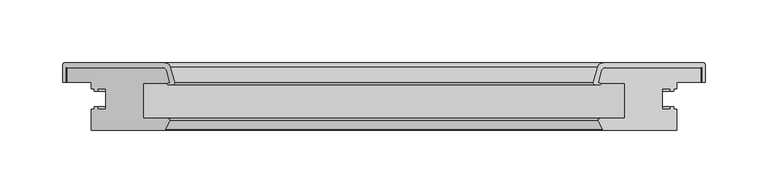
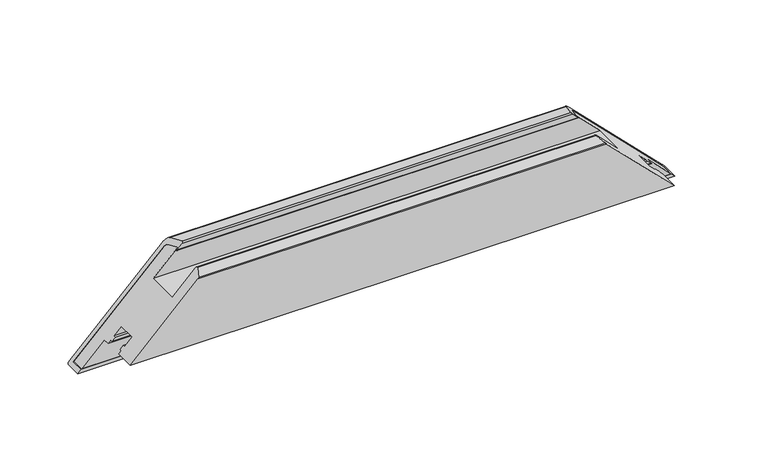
"""IFC4 building model written with IfcOpenShell, lengths in millimetres: proxy geometry, Weiku - Montante - Folha 02.2.01.018 : Weiku - Montante - Folha 02.2.01.018."""

from ifc_helpers import new_model, si_unit, frame, origin, place, context, project, spatial, polyline, ellipse_curve, source, transform, mapped, element, save
from ifc_brep_helpers import plane_surface, cylinder_surface, revolved_surface, advanced_brep


def generic_models_f7bc3406(model_context):
    return source(origin(), model_context, "Body", "AdvancedBrep", [
        advanced_brep(
        [(253.5, 50.0, 0.0), (176.4997332, 50.0, 77.0002668), (-176.4997332, 50.0, 77.0002668), (-253.5, 50.0, 0.0), (173.6019557, 47.7764571, 79.8980443), (-173.6019557, 47.7764571, 79.8980443), (171.0170371, 38.1294095, 82.4829629), (-171.0170371, 38.1294095, 82.4829629), (171.5, 37.5, 82.0), (-171.5, 37.5, 82.0), (172.3560102, 37.5, 81.1439898), (-172.3560102, 37.5, 81.1439898), (172.3560102, 36.5, 81.1439898), (-172.3560102, 36.5, 81.1439898), (167.7425588, 36.5, 85.7574412), (-167.7425588, 36.5, 85.7574412), (166.7766329, 37.758819, 86.7233671), (-166.7766329, 37.758819, 86.7233671), (170.1354501, 50.2940952, 83.3645499), (-170.1354501, 50.2940952, 83.3645499), (174.9650792, 54.0, 78.5349208), (-174.9650792, 54.0, 78.5349208), (254.5, 54.0, -1.0), (-254.5, 54.0, -1.0), (256.5, 52.0, -3.0), (-256.5, 52.0, -3.0), (256.5, 38.5, -3.0), (-256.5, 38.5, -3.0), (253.5, 38.5, 0.0), (-253.5, 38.5, 0.0)],
        [
            (0, 1),
            (1, 2),
            (2, 3),
            (3, 0),
            (1, 4, ellipse_curve(frame((176.4997332, 47.0, 77.0002668), z_axis=(0.7071067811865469, 0.0, 0.7071067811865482), x_axis=(0.707106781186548, 0.0, -0.7071067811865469)), 4.2426407, 3.0)),
            (4, 5),
            (5, 2, ellipse_curve(frame((-176.4997332, 47.0, 77.0002668), z_axis=(-0.707106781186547, 0.0, 0.7071067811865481), x_axis=(0.7071067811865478, 0.0, 0.707106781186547)), 4.2426407, 3.0)),
            (4, 6),
            (6, 7),
            (7, 5),
            (6, 8, ellipse_curve(frame((171.5, 38.0, 82.0), z_axis=(0.7071067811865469, 0.0, 0.7071067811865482), x_axis=(0.707106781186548, 0.0, -0.7071067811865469)), 0.7071068, 0.5)),
            (8, 9),
            (9, 7, ellipse_curve(frame((-171.5, 38.0, 82.0), z_axis=(-0.707106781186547, 0.0, 0.7071067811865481), x_axis=(0.7071067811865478, 0.0, 0.707106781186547)), 0.7071068, 0.5)),
            (8, 10),
            (10, 11),
            (11, 9),
            (10, 12, ellipse_curve(frame((172.3560102, 37.0, 81.1439898), z_axis=(-0.7071067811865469, 0.0, -0.7071067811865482), x_axis=(-0.707106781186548, 0.0, 0.7071067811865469)), 0.7071068, 0.5)),
            (12, 13),
            (13, 11, ellipse_curve(frame((-172.3560102, 37.0, 81.1439898), z_axis=(0.707106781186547, 0.0, -0.7071067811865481), x_axis=(-0.7071067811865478, 0.0, -0.707106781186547)), 0.7071068, 0.5)),
            (12, 14),
            (14, 15),
            (15, 13),
            (14, 16, ellipse_curve(frame((167.7425588, 37.5, 85.7574412), z_axis=(-0.7071067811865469, 0.0, -0.7071067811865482), x_axis=(-0.707106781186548, 0.0, 0.7071067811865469)), 1.4142136, 1.0)),
            (16, 17),
            (17, 15, ellipse_curve(frame((-167.7425588, 37.5, 85.7574412), z_axis=(0.707106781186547, 0.0, -0.7071067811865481), x_axis=(-0.7071067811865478, 0.0, -0.707106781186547)), 1.4142136, 1.0)),
            (16, 18),
            (18, 19),
            (19, 17),
            (18, 20, ellipse_curve(frame((174.9650792, 49.0, 78.5349208), z_axis=(-0.7071067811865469, 0.0, -0.7071067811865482), x_axis=(-0.707106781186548, 0.0, 0.7071067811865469)), 7.0710678, 5.0)),
            (20, 21),
            (21, 19, ellipse_curve(frame((-174.9650792, 49.0, 78.5349208), z_axis=(0.707106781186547, 0.0, -0.7071067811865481), x_axis=(-0.7071067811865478, 0.0, -0.707106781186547)), 7.0710678, 5.0)),
            (20, 22),
            (22, 23),
            (23, 21),
            (22, 24, ellipse_curve(frame((254.5, 52.0, -1.0), z_axis=(-0.7071067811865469, 0.0, -0.7071067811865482), x_axis=(-0.707106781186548, 0.0, 0.7071067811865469)), 2.8284271, 2.0)),
            (24, 25),
            (25, 23, ellipse_curve(frame((-254.5, 52.0, -1.0), z_axis=(0.707106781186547, 0.0, -0.7071067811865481), x_axis=(-0.7071067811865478, 0.0, -0.707106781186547)), 2.8284271, 2.0)),
            (24, 26),
            (26, 27),
            (27, 25),
            (26, 28),
            (28, 29),
            (29, 27),
            (28, 0),
            (3, 29),
        ],
        [
            plane_surface(frame((-273.5, 50.0, 0.0), z_axis=(0.0, -1.0, 0.0), x_axis=(1.0, 0.0, 0.0))),
            revolved_surface(polyline([(179.49973320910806, 50.0, 77.0002668), (-179.49973320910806, 50.0, 77.0002668)]), (-273.5, 47.0, 77.0002668), (1.0, 0.0, 0.0)),
            plane_surface(frame((-273.5, 47.7764571, 79.8980443), z_axis=(0.0, -0.2588190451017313, -0.9659258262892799), x_axis=(1.0, 0.0, 0.0))),
            revolved_surface(polyline([(172.00000001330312, 38.5, 82.0), (-172.00000001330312, 38.5, 82.0)]), (-273.5, 38.0, 82.0), (1.0, 0.0, 0.0)),
            plane_surface(frame((-273.5, 37.5, 82.0), z_axis=(0.0, 1.0, 0.0), x_axis=(1.0, 0.0, 0.0))),
            cylinder_surface(frame((-273.5, 37.0, 81.1439898), z_axis=(-1.0, 0.0, 0.0), x_axis=(0.0, 1.0, 0.0)), 0.5),
            plane_surface(frame((-273.5, 36.5, 81.1439898), z_axis=(0.0, -1.0, 0.0), x_axis=(1.0, 0.0, 0.0))),
            cylinder_surface(frame((-273.5, 37.5, 85.7574412), z_axis=(-1.0, 0.0, 0.0), x_axis=(0.0, 1.0, 0.0)), 1.0),
            plane_surface(frame((-273.5, 37.758819, 86.7233671), z_axis=(0.0, 0.25881904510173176, 0.9659258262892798), x_axis=(1.0, 0.0, 0.0))),
            cylinder_surface(frame((-273.5, 49.0, 78.5349208), z_axis=(-1.0, 0.0, 0.0), x_axis=(0.0, 1.0, 0.0)), 5.0),
            plane_surface(frame((-273.5, 54.0, 78.5349208), z_axis=(0.0, 1.0, 0.0), x_axis=(1.0, 0.0, 0.0))),
            cylinder_surface(frame((-273.5, 52.0, -1.0), z_axis=(-1.0, 0.0, 0.0), x_axis=(0.0, 1.0, 0.0)), 2.0),
            plane_surface(frame((-273.5, 52.0, -3.0), z_axis=(0.0, 0.0, -1.0), x_axis=(1.0, 0.0, 0.0))),
            plane_surface(frame((-273.5, 38.5, -3.0), z_axis=(0.0, -1.0, 0.0), x_axis=(1.0, 0.0, 0.0))),
            plane_surface(frame((-273.5, 38.5, 0.0), z_axis=(0.0, 0.0, 1.0), x_axis=(1.0, 0.0, 0.0))),
            plane_surface(frame((163.5, 0.0, 90.0), z_axis=(0.7071067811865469, 0.0, 0.7071067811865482), x_axis=(0.0, 1.0, 0.0))),
            plane_surface(frame((-281.7842712, 0.0, -28.2842712), z_axis=(-0.707106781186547, 0.0, 0.7071067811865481), x_axis=(0.0, 1.0, 0.0))),
        ],
        [
            (0, [[1, 2, 3, 4]]),
            (1, [[5, 6, 7, -2]]),
            (2, [[8, 9, 10, -6]]),
            (3, [[11, 12, 13, -9]]),
            (4, [[14, 15, 16, -12]]),
            (5, [[17, 18, 19, -15]]),
            (6, [[20, 21, 22, -18]]),
            (7, [[23, 24, 25, -21]]),
            (8, [[26, 27, 28, -24]]),
            (9, [[29, 30, 31, -27]]),
            (10, [[32, 33, 34, -30]]),
            (11, [[35, 36, 37, -33]]),
            (12, [[38, 39, 40, -36]]),
            (13, [[41, 42, 43, -39]]),
            (14, [[44, -4, 45, -42]]),
            (15, [[-1, -44, -41, -38, -35, -32, -29, -26, -23, -20, -17, -14, -11, -8, -5]]),
            (16, [[-3, -7, -10, -13, -16, -19, -22, -25, -28, -31, -34, -37, -40, -43, -45]]),
        ],
    ),
        advanced_brep(
        [(253.5, 50.0, 0.0), (-253.5, 50.0, 0.0), (-176.4997332, 50.0, 77.0002668), (176.4997332, 50.0, 77.0002668), (253.5, 38.5, 0.0), (-253.5, 38.5, 0.0), (-175.4872264, 0.0, 78.0127736), (-233.5, 0.0, 20.0), (233.5, 0.0, 20.0), (175.4872264, 0.0, 78.0127736), (-233.5, 38.5, 20.0), (-233.5, 33.1, 20.0), (-231.3, 33.1, 22.2), (-231.3, 31.1, 22.2), (-228.5, 31.1, 25.0), (-228.5, 33.1, 25.0), (-222.0, 33.1, 31.5), (-222.0, 16.9, 31.5), (-228.5, 16.9, 25.0), (-228.5, 18.9, 25.0), (-231.3, 18.9, 22.2), (-231.3, 16.9, 22.2), (-233.5, 16.9, 20.0), (-174.5932657, 0.5518546, 78.9067343), (-171.0512796, 7.617411, 82.4487204), (-172.2134285, 9.5, 81.2865715), (-192.0, 9.5, 61.5), (-192.0, 37.5, 61.5), (-171.5, 37.5, 82.0), (-171.0170371, 38.1294095, 82.4829629), (-173.6019557, 47.7764571, 79.8980443), (173.6019557, 47.7764571, 79.8980443), (171.0170371, 38.1294095, 82.4829629), (171.5, 37.5, 82.0), (192.0, 37.5, 61.5), (192.0, 9.5, 61.5), (172.2134285, 9.5, 81.2865715), (171.0512796, 7.617411, 82.4487204), (174.5932657, 0.5518546, 78.9067343), (233.5, 16.9, 20.0), (231.3, 16.9, 22.2), (231.3, 18.9, 22.2), (228.5, 18.9, 25.0), (228.5, 16.9, 25.0), (222.0, 16.9, 31.5), (222.0, 33.1, 31.5), (228.5, 33.1, 25.0), (228.5, 31.1, 25.0), (231.3, 31.1, 22.2), (231.3, 33.1, 22.2), (233.5, 33.1, 20.0), (233.5, 38.5, 20.0)],
        [
            (0, 1),
            (1, 2),
            (2, 3),
            (3, 0),
            (0, 4),
            (4, 5),
            (5, 1),
            (6, 7),
            (7, 8),
            (8, 9),
            (9, 6),
            (5, 10),
            (10, 11),
            (11, 12),
            (12, 13),
            (13, 14),
            (14, 15),
            (15, 16),
            (16, 17),
            (17, 18),
            (18, 19),
            (19, 20),
            (20, 21),
            (21, 22),
            (22, 7),
            (6, 23, ellipse_curve(frame((-175.4872264, 1.0, 78.0127736), z_axis=(-0.707106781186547, 0.0, 0.7071067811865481), x_axis=(-0.7071067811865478, 0.0, -0.707106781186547)), 1.4142136, 1.0)),
            (23, 24),
            (24, 25, ellipse_curve(frame((-172.2134285, 8.2, 81.2865715), z_axis=(-0.707106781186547, 0.0, 0.7071067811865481), x_axis=(-0.7071067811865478, 0.0, -0.707106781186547)), 1.8384776, 1.3)),
            (25, 26),
            (26, 27),
            (27, 28),
            (28, 29, ellipse_curve(frame((-171.5, 38.0, 82.0), z_axis=(-0.707106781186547, 0.0, 0.7071067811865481), x_axis=(-0.7071067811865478, 0.0, -0.707106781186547)), 0.7071068, 0.5)),
            (29, 30),
            (30, 2, ellipse_curve(frame((-176.4997332, 47.0, 77.0002668), z_axis=(-0.707106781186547, 0.0, 0.7071067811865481), x_axis=(-0.7071067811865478, 0.0, -0.707106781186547)), 4.2426407, 3.0)),
            (3, 31, ellipse_curve(frame((176.4997332, 47.0, 77.0002668), z_axis=(0.7071067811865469, 0.0, 0.7071067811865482), x_axis=(-0.707106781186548, 0.0, 0.7071067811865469)), 4.2426407, 3.0)),
            (31, 32),
            (32, 33, ellipse_curve(frame((171.5, 38.0, 82.0), z_axis=(0.7071067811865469, 0.0, 0.7071067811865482), x_axis=(-0.707106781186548, 0.0, 0.7071067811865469)), 0.7071068, 0.5)),
            (33, 34),
            (34, 35),
            (35, 36),
            (36, 37, ellipse_curve(frame((172.2134285, 8.2, 81.2865715), z_axis=(0.7071067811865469, 0.0, 0.7071067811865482), x_axis=(-0.707106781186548, 0.0, 0.7071067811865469)), 1.8384776, 1.3)),
            (37, 38),
            (38, 9, ellipse_curve(frame((175.4872264, 1.0, 78.0127736), z_axis=(0.7071067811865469, 0.0, 0.7071067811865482), x_axis=(-0.707106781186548, 0.0, 0.7071067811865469)), 1.4142136, 1.0)),
            (8, 39),
            (39, 40),
            (40, 41),
            (41, 42),
            (42, 43),
            (43, 44),
            (44, 45),
            (45, 46),
            (46, 47),
            (47, 48),
            (48, 49),
            (49, 50),
            (50, 51),
            (51, 4),
            (38, 23),
            (37, 24),
            (36, 25),
            (35, 26),
            (34, 27),
            (33, 28),
            (32, 29),
            (31, 30),
            (51, 10),
            (50, 11),
            (49, 12),
            (48, 13),
            (47, 14),
            (46, 15),
            (45, 16),
            (44, 17),
            (43, 18),
            (42, 19),
            (41, 20),
            (40, 21),
            (39, 22),
        ],
        [
            plane_surface(frame((-253.5, 50.0, 77.0002668), z_axis=(0.0, 1.0, 0.0), x_axis=(1.0, 0.0, 0.0))),
            plane_surface(frame((-253.5, 50.0, 0.0), z_axis=(0.0, 0.0, -1.0), x_axis=(1.0, 0.0, 0.0))),
            plane_surface(frame((-253.5, 0.0, 20.0), z_axis=(0.0, -1.0, 0.0), x_axis=(1.0, 0.0, 0.0))),
            plane_surface(frame((-281.7842712, 0.0, -28.2842712), z_axis=(-0.707106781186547, 0.0, 0.7071067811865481), x_axis=(0.0, 1.0, 0.0))),
            plane_surface(frame((163.5, 0.0, 90.0), z_axis=(0.7071067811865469, 0.0, 0.7071067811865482), x_axis=(0.0, 1.0, 0.0))),
            cylinder_surface(frame((-253.5, 1.0, 78.0127736), z_axis=(-1.0, 0.0, 0.0), x_axis=(0.0, 1.0, 0.0)), 1.0),
            plane_surface(frame((-253.5, 0.5518546, 78.9067343), z_axis=(0.0, -0.4481453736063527, 0.8939606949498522), x_axis=(1.0, 0.0, 0.0))),
            cylinder_surface(frame((-253.5, 8.2, 81.2865715), z_axis=(-1.0, 0.0, 0.0), x_axis=(0.0, 1.0, 0.0)), 1.3),
            plane_surface(frame((-253.5, 9.5, 81.2865715), z_axis=(0.0, 1.0, 0.0), x_axis=(1.0, 0.0, 0.0))),
            plane_surface(frame((-253.5, 9.5, 61.5), z_axis=(0.0, 0.0, 1.0), x_axis=(1.0, 0.0, 0.0))),
            plane_surface(frame((-253.5, 37.5, 61.5), z_axis=(0.0, -1.0, 0.0), x_axis=(1.0, 0.0, 0.0))),
            cylinder_surface(frame((-253.5, 38.0, 82.0), z_axis=(-1.0, 0.0, 0.0), x_axis=(0.0, 1.0, 0.0)), 0.5),
            plane_surface(frame((-253.5, 38.1294095, 82.4829629), z_axis=(0.0, 0.2588190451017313, 0.9659258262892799), x_axis=(1.0, 0.0, 0.0))),
            cylinder_surface(frame((-253.5, 47.0, 77.0002668), z_axis=(-1.0, 0.0, 0.0), x_axis=(0.0, 1.0, 0.0)), 3.0),
            plane_surface(frame((-253.5, 38.5, 0.0), z_axis=(0.0, -1.0, 0.0), x_axis=(1.0, 0.0, 0.0))),
            plane_surface(frame((-253.5, 38.5, 20.0), z_axis=(0.0, 0.0, -1.0), x_axis=(1.0, 0.0, 0.0))),
            plane_surface(frame((-253.5, 33.1, 20.0), z_axis=(0.0, -1.0, 0.0), x_axis=(1.0, 0.0, 0.0))),
            plane_surface(frame((-253.5, 33.1, 22.2), z_axis=(0.0, 0.0, -1.0), x_axis=(1.0, 0.0, 0.0))),
            plane_surface(frame((-253.5, 31.1, 22.2), z_axis=(0.0, -1.0, 0.0), x_axis=(1.0, 0.0, 0.0))),
            plane_surface(frame((-253.5, 31.1, 25.0), z_axis=(0.0, 0.0, 1.0), x_axis=(1.0, 0.0, 0.0))),
            plane_surface(frame((-253.5, 33.1, 25.0), z_axis=(0.0, -1.0, 0.0), x_axis=(1.0, 0.0, 0.0))),
            plane_surface(frame((-253.5, 33.1, 31.5), z_axis=(0.0, 0.0, -1.0), x_axis=(1.0, 0.0, 0.0))),
            plane_surface(frame((-253.5, 16.9, 31.5), z_axis=(0.0, 1.0, 0.0), x_axis=(1.0, 0.0, 0.0))),
            plane_surface(frame((-253.5, 16.9, 25.0), z_axis=(0.0, 0.0, 1.0), x_axis=(1.0, 0.0, 0.0))),
            plane_surface(frame((-253.5, 18.9, 25.0), z_axis=(0.0, 1.0, 0.0), x_axis=(1.0, 0.0, 0.0))),
            plane_surface(frame((-253.5, 18.9, 22.2), z_axis=(0.0, 0.0, -1.0), x_axis=(1.0, 0.0, 0.0))),
            plane_surface(frame((-253.5, 16.9, 22.2), z_axis=(0.0, 1.0, 0.0), x_axis=(1.0, 0.0, 0.0))),
            plane_surface(frame((-253.5, 16.9, 20.0), z_axis=(0.0, 0.0, -1.0), x_axis=(1.0, 0.0, 0.0))),
        ],
        [
            (0, [[1, 2, 3, 4]]),
            (1, [[-1, 5, 6, 7]]),
            (2, [[8, 9, 10, 11]]),
            (3, [[-2, -7, 12, 13, 14, 15, 16, 17, 18, 19, 20, 21, 22, 23, 24, 25, -8, 26, 27, 28, 29, 30, 31, 32, 33, 34]]),
            (4, [[-4, 35, 36, 37, 38, 39, 40, 41, 42, 43, -10, 44, 45, 46, 47, 48, 49, 50, 51, 52, 53, 54, 55, 56, 57, -5]]),
            (5, [[-26, -11, -43, 58]]),
            (6, [[-27, -58, -42, 59]]),
            (7, [[-28, -59, -41, 60]]),
            (8, [[-29, -60, -40, 61]]),
            (9, [[-30, -61, -39, 62]]),
            (10, [[-31, -62, -38, 63]]),
            (11, [[-32, -63, -37, 64]]),
            (12, [[-33, -64, -36, 65]]),
            (13, [[-34, -65, -35, -3]]),
            (14, [[-6, -57, 66, -12]]),
            (15, [[-13, -66, -56, 67]]),
            (16, [[-14, -67, -55, 68]]),
            (17, [[-15, -68, -54, 69]]),
            (18, [[-16, -69, -53, 70]]),
            (19, [[-17, -70, -52, 71]]),
            (20, [[-18, -71, -51, 72]]),
            (21, [[-19, -72, -50, 73]]),
            (22, [[-20, -73, -49, 74]]),
            (23, [[-21, -74, -48, 75]]),
            (24, [[-22, -75, -47, 76]]),
            (25, [[-23, -76, -46, 77]]),
            (26, [[-24, -77, -45, 78]]),
            (27, [[-25, -78, -44, -9]]),
        ],
    ),
    ])


if __name__ == "__main__":
    model = new_model("IFC4")
    model_context = context("Model", 3, world=origin())
    ifc_project = project(units=[si_unit("LENGTHUNIT", "METRE", prefix="MILLI")], contexts=[model_context])
    site = spatial("IfcSite", under=ifc_project)
    building = spatial("IfcBuilding", under=site)
    placement = place(None, origin())
    generic_models_shape = generic_models_f7bc3406(model_context)
    element("IfcBuildingElementProxy", 1, Name="Weiku - Montante - Folha 02.2.01.018 : Weiku - Montante - Folha 02.2.01.018", ObjectType="Weiku - Montante - Folha 02.2.01.018 : Weiku - Montante - Folha 02.2.01.018", at=placement, inside=building, context=model_context, shape_type="MappedRepresentation", body=[
        mapped(generic_models_shape, transform((0.0, 0.0, 0.0), x_axis=(1.0, 0.0, 0.0), y_axis=(0.0, 1.0, 0.0), z_axis=(0.0, 0.0, 1.0))),
    ])
    save(model, "model.ifc")
